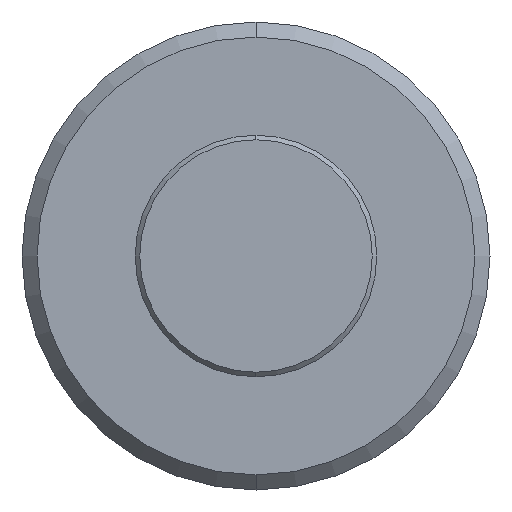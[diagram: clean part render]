
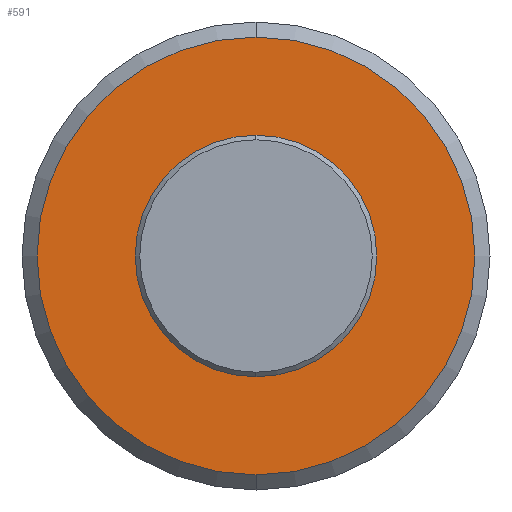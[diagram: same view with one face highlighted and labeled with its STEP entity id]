
A CAD part, left-side view. The second image highlights one B-rep face of the part: STEP entity #591.
In plain terms, the highlighted planar face has unit normal (-1, 0, 0).
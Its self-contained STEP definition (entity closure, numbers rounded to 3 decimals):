
#7 = EDGE_CURVE ( 'NONE', #571, #103, #539, .T. ) ;
#50 = ORIENTED_EDGE ( 'NONE', *, *, #527, .T. ) ;
#62 = CARTESIAN_POINT ( 'NONE',  ( -24.026, 0., 0. ) ) ;
#103 = VERTEX_POINT ( 'NONE', #301 ) ;
#107 = DIRECTION ( 'NONE',  ( 0., 0., 1. ) ) ;
#136 = ORIENTED_EDGE ( 'NONE', *, *, #187, .F. ) ;
#137 = AXIS2_PLACEMENT_3D ( 'NONE', #177, #233, #273 ) ;
#147 = CARTESIAN_POINT ( 'NONE',  ( -24.026, 0., 0. ) ) ;
#150 = DIRECTION ( 'NONE',  ( -1., 0., 0. ) ) ;
#155 = EDGE_LOOP ( 'NONE', ( #627, #50 ) ) ;
#161 = CIRCLE ( 'NONE', #590, 14.5 ) ;
#177 = CARTESIAN_POINT ( 'NONE',  ( -24.026, 0., 0. ) ) ;
#187 = EDGE_CURVE ( 'NONE', #103, #571, #564, .T. ) ;
#197 = DIRECTION ( 'NONE',  ( 1., 0., 0. ) ) ;
#233 = DIRECTION ( 'NONE',  ( -1., 0., 0. ) ) ;
#252 = DIRECTION ( 'NONE',  ( 0., 0., 1. ) ) ;
#256 = CIRCLE ( 'NONE', #493, 14.5 ) ;
#273 = DIRECTION ( 'NONE',  ( 0., 0., 1. ) ) ;
#280 = DIRECTION ( 'NONE',  ( -1., 0., 0. ) ) ;
#301 = CARTESIAN_POINT ( 'NONE',  ( -24.026, 0., 8. ) ) ;
#302 = CARTESIAN_POINT ( 'NONE',  ( -24.026, 0., -8. ) ) ;
#318 = EDGE_CURVE ( 'NONE', #576, #494, #161, .T. ) ;
#336 = ORIENTED_EDGE ( 'NONE', *, *, #7, .F. ) ;
#338 = EDGE_LOOP ( 'NONE', ( #136, #336 ) ) ;
#365 = DIRECTION ( 'NONE',  ( 0., 0., 1. ) ) ;
#391 = PLANE ( 'NONE',  #411 ) ;
#400 = CARTESIAN_POINT ( 'NONE',  ( -24.026, 0., 0. ) ) ;
#401 = AXIS2_PLACEMENT_3D ( 'NONE', #400, #150, #107 ) ;
#405 = FACE_BOUND ( 'NONE', #338, .T. ) ;
#411 = AXIS2_PLACEMENT_3D ( 'NONE', #431, #197, #441 ) ;
#431 = CARTESIAN_POINT ( 'NONE',  ( -24.026, 8., 0. ) ) ;
#441 = DIRECTION ( 'NONE',  ( 0., 0., -1. ) ) ;
#487 = CARTESIAN_POINT ( 'NONE',  ( -24.026, 0., -14.5 ) ) ;
#493 = AXIS2_PLACEMENT_3D ( 'NONE', #147, #577, #252 ) ;
#494 = VERTEX_POINT ( 'NONE', #526 ) ;
#526 = CARTESIAN_POINT ( 'NONE',  ( -24.026, 0., 14.5 ) ) ;
#527 = EDGE_CURVE ( 'NONE', #494, #576, #256, .T. ) ;
#539 = CIRCLE ( 'NONE', #137, 8. ) ;
#564 = CIRCLE ( 'NONE', #401, 8. ) ;
#571 = VERTEX_POINT ( 'NONE', #302 ) ;
#576 = VERTEX_POINT ( 'NONE', #487 ) ;
#577 = DIRECTION ( 'NONE',  ( -1., 0., 0. ) ) ;
#590 = AXIS2_PLACEMENT_3D ( 'NONE', #62, #280, #365 ) ;
#591 = ADVANCED_FACE ( 'NONE', ( #405, #592 ), #391, .F. ) ;
#592 = FACE_OUTER_BOUND ( 'NONE', #155, .T. ) ;
#627 = ORIENTED_EDGE ( 'NONE', *, *, #318, .T. ) ;
